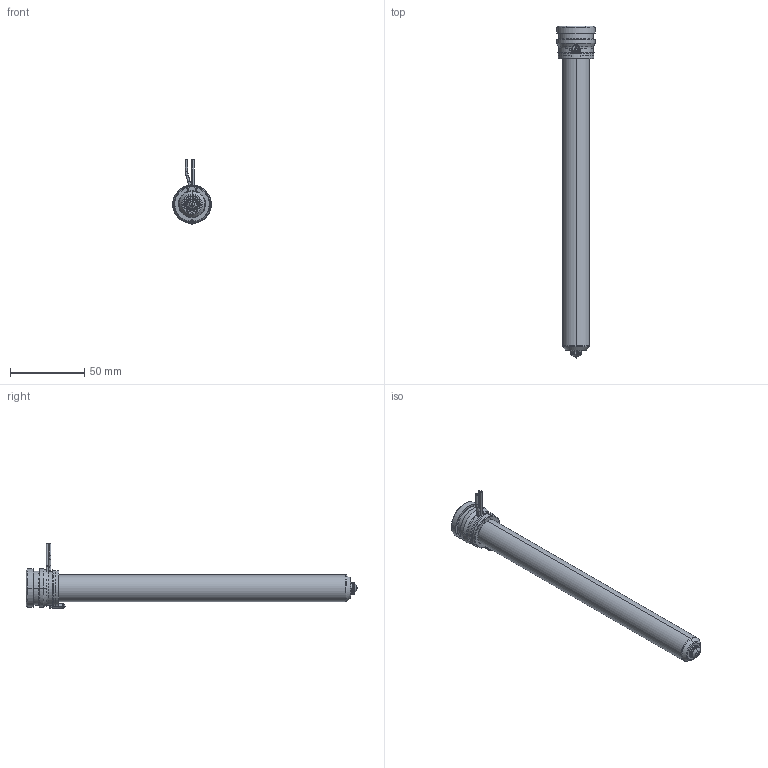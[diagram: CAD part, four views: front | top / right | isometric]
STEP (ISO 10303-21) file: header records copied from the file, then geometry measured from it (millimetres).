
FILE_DESCRIPTION((''),'2;1');
FILE_NAME('MPN-08-24-VSA8-206-A','2026-02-05T12:04:37',('UPTIO'),('Thermoplay S.p.A.'),'CREO PARAMETRIC BY PTC INC, 2023494','CREO PARAMETRIC BY PTC INC, 2023494','');
FILE_SCHEMA(('CONFIG_CONTROL_DESIGN','SHAPE_APPEARANCE_LAYERS_GROUPS'));
Length unit declared in the file: millimetre
Products named in the file (1): MPN-08-24-VSA8-206-A
Bounding box: 26 x 224 x 43.5 mm (x, y, z)
Volume: 41393 mm3; surface area: 54713.6 mm2
Topology: 2 solids, 3 shells, 543 faces, 1440 edges, 895 vertices
Faces by surface type: cylinder 182, plane 143, bspline 80, torus 62, cone 60, sphere 10, extrusion 6
Entity records: 29196 total; most frequent: CARTESIAN_POINT 12998, ORIENTED_EDGE 2864, DIRECTION 2580, EDGE_CURVE 1432, AXIS2_PLACEMENT_3D 1007, VERTEX_POINT 895, EDGE_LOOP 571, VECTOR 566
